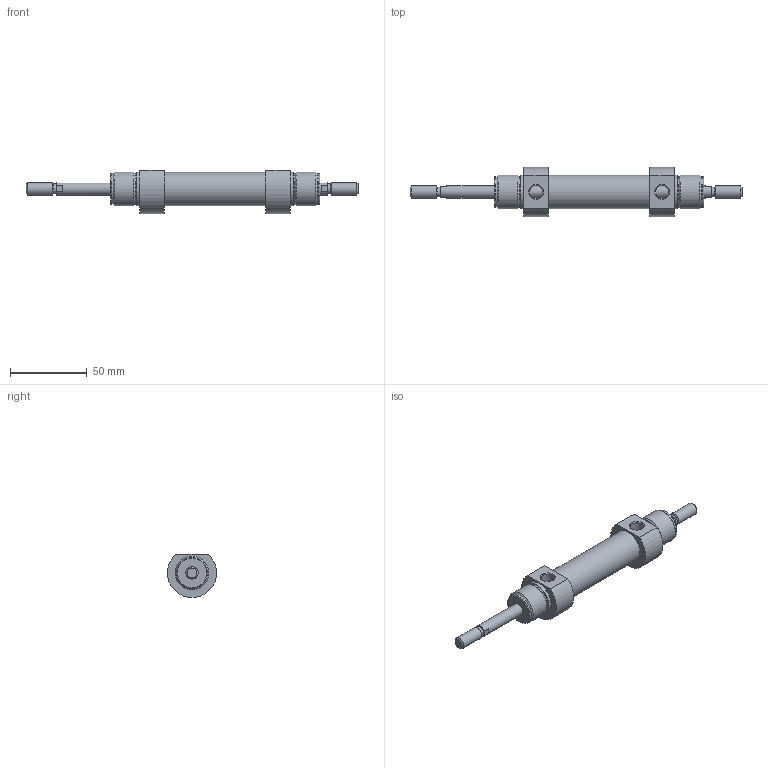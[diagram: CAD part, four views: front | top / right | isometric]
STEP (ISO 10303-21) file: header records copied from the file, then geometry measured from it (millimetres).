
FILE_DESCRIPTION( ( 'STEP AP203' ), '1' );
FILE_NAME( '//expscmdclustefs.cadenas.external/client_exchange/iodir/jobs/output/wkb68459087_no0/STEP/M101-020-0030--__0__2_03.stp', ' ', ( ' ' ), ( ' ' ), 'PSStep 15.0.47', 'PARTsolutions', ' ' );
FILE_SCHEMA( ( 'CONFIG_CONTROL_DESIGN' ) );
Length unit declared in the file: millimetre
Products named in the file (3): M101-020-0030-- [0]; HI_M101-020-0030---[0]-z; HI_M101-020-0030---[0]-k
Assembly tree (2 placements, depth 2):
  M101-020-0030-- [0]
    HI_M101-020-0030---[0]-z
    HI_M101-020-0030---[0]-k
Bounding box: 216 x 32 x 28 mm (x, y, z)
Volume: 57044.1 mm3; surface area: 24423.2 mm2
Topology: 2 solids, 2 shells, 65 faces, 129 edges, 80 vertices
Faces by surface type: plane 26, cylinder 23, cone 14, torus 2
Full cylindrical faces by diameter (mm): 6.466 x2, 8 x6, 8.566 x2, 20 x2, 20.16 x4, 21.6 x1, 22 x4
Entity records: 1702 total; most frequent: CARTESIAN_POINT 356, DIRECTION 280, ORIENTED_EDGE 184, AXIS2_PLACEMENT_3D 128, EDGE_LOOP 116, EDGE_CURVE 92, FACE_OUTER_BOUND 88, VERTEX_POINT 76
